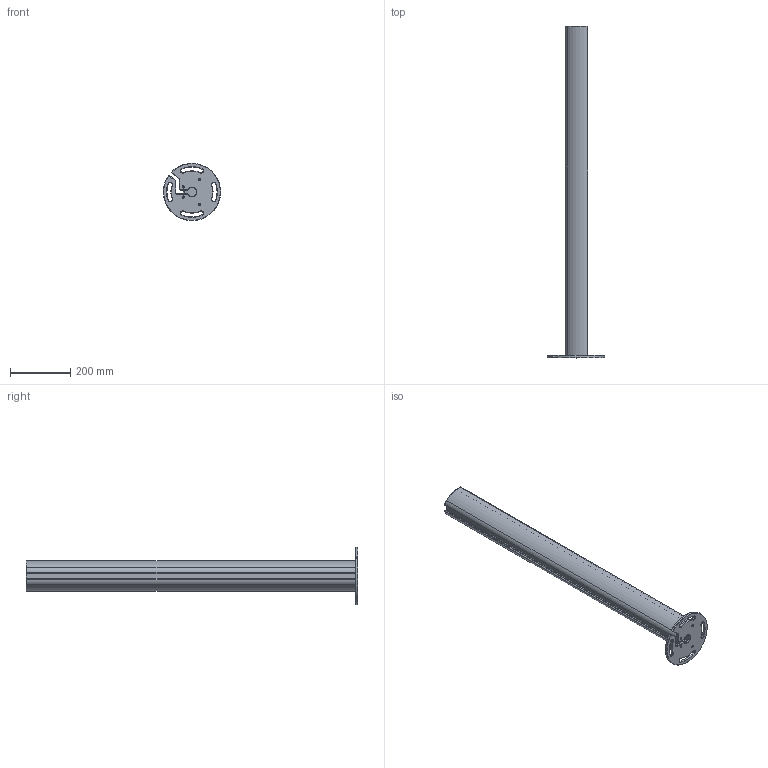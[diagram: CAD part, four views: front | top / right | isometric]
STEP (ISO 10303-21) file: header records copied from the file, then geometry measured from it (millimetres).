
FILE_DESCRIPTION((''),'2;1');
FILE_NAME('ESQC_ASM','2022-07-19T11:55:59',('18822879468'),(''),'CREO PARAMETRIC BY PTC INC, 2019010','CREO PARAMETRIC BY PTC INC, 2019010','');
FILE_SCHEMA(('CONFIG_CONTROL_DESIGN'));
Length unit declared in the file: millimetre
Products named in the file (5): 00; _-0001; _-0002; 000; ESQC_ASM
Assembly tree (4 placements, depth 2):
  ESQC_ASM
    00
    _-0001
    _-0002
    000
Bounding box: 189.81 x 1100 x 189.85 mm (x, y, z)
Volume: 1654458.4 mm3; surface area: 867945.8 mm2
Topology: 4 solids, 4 shells, 239 faces, 613 edges, 378 vertices
Faces by surface type: cylinder 98, plane 73, cone 68
Entity records: 7388 total; most frequent: DIRECTION 1365, CARTESIAN_POINT 1235, ORIENTED_EDGE 1218, EDGE_CURVE 609, AXIS2_PLACEMENT_3D 508, VERTEX_POINT 378, VECTOR 349, LINE 349
